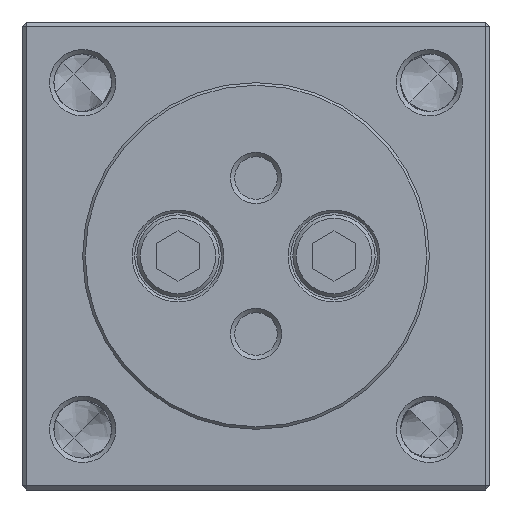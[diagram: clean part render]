
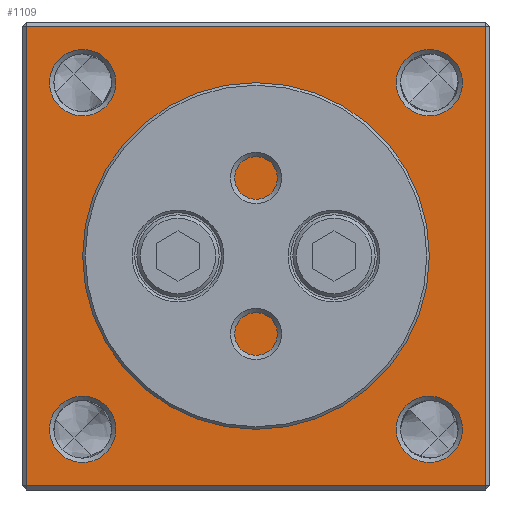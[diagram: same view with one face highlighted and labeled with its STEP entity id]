
A CAD part, front view. The second image highlights one B-rep face of the part: STEP entity #1109.
In plain terms, the highlighted planar face has unit normal (0, -1, 0).
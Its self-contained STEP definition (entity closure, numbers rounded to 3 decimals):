
#1000=CARTESIAN_POINT('',(9.0,0.0,6.289));
#1001=VERTEX_POINT('',#1000);
#1002=CARTESIAN_POINT('',(9.0,0.0,0.0));
#1003=DIRECTION('',(0.0,-1.0,0.0));
#1004=DIRECTION('',(0.0,0.0,-1.0));
#1005=AXIS2_PLACEMENT_3D('',#1002,#1003,#1004);
#1006=CIRCLE('',#1005,6.289);
#1007=EDGE_CURVE('',#1001,#1001,#1006,.T.);
#1012=CARTESIAN_POINT('',(0.,0.0,0.));
#1013=DIRECTION('',(0.0,1.0,0.0));
#1014=DIRECTION('',(0.0,0.0,1.0));
#1015=AXIS2_PLACEMENT_3D('',#1012,#1013,#1014);
#1016=PLANE('',#1015);
#1017=CARTESIAN_POINT('',(-26.5,0.0,26.5));
#1018=VERTEX_POINT('',#1017);
#1019=CARTESIAN_POINT('',(26.5,0.0,26.5));
#1020=VERTEX_POINT('',#1019);
#1021=CARTESIAN_POINT('',(-26.5,0.0,26.5));
#1022=DIRECTION('',(1.0,0.0,0.0));
#1023=VECTOR('',#1022,53.0);
#1024=LINE('',#1021,#1023);
#1025=EDGE_CURVE('',#1018,#1020,#1024,.T.);
#1026=ORIENTED_EDGE('',*,*,#1025,.F.);
#1027=CARTESIAN_POINT('',(-26.5,0.0,-26.5));
#1028=VERTEX_POINT('',#1027);
#1029=CARTESIAN_POINT('',(-26.5,0.0,-26.5));
#1030=DIRECTION('',(0.0,0.0,1.0));
#1031=VECTOR('',#1030,53.);
#1032=LINE('',#1029,#1031);
#1033=EDGE_CURVE('',#1028,#1018,#1032,.T.);
#1034=ORIENTED_EDGE('',*,*,#1033,.F.);
#1035=CARTESIAN_POINT('',(26.5,0.0,-26.5));
#1036=VERTEX_POINT('',#1035);
#1037=CARTESIAN_POINT('',(26.5,0.0,-26.5));
#1038=DIRECTION('',(-1.0,0.0,0.0));
#1039=VECTOR('',#1038,53.);
#1040=LINE('',#1037,#1039);
#1041=EDGE_CURVE('',#1036,#1028,#1040,.T.);
#1042=ORIENTED_EDGE('',*,*,#1041,.F.);
#1043=CARTESIAN_POINT('',(26.5,0.0,26.5));
#1044=DIRECTION('',(0.0,0.0,-1.0));
#1045=VECTOR('',#1044,53.);
#1046=LINE('',#1043,#1045);
#1047=EDGE_CURVE('',#1020,#1036,#1046,.T.);
#1048=ORIENTED_EDGE('',*,*,#1047,.F.);
#1049=EDGE_LOOP('',(#1026,#1034,#1042,#1048));
#1050=FACE_OUTER_BOUND('',#1049,.T.);
#1051=CARTESIAN_POINT('',(-9.,0.0,6.289));
#1052=VERTEX_POINT('',#1051);
#1053=CARTESIAN_POINT('',(-9.0,0.0,0.0));
#1054=DIRECTION('',(0.0,-1.0,0.0));
#1055=DIRECTION('',(0.0,0.0,-1.0));
#1056=AXIS2_PLACEMENT_3D('',#1053,#1054,#1055);
#1057=CIRCLE('',#1056,6.289);
#1058=EDGE_CURVE('',#1052,#1052,#1057,.T.);
#1059=ORIENTED_EDGE('',*,*,#1058,.F.);
#1060=EDGE_LOOP('',(#1059));
#1061=FACE_BOUND('',#1060,.T.);
#1062=CARTESIAN_POINT('',(23.824,0.0,-20.0));
#1063=VERTEX_POINT('',#1062);
#1064=CARTESIAN_POINT('',(20.0,0.0,-20.0));
#1065=DIRECTION('',(0.0,-1.0,0.0));
#1066=DIRECTION('',(-1.0,0.0,0.0));
#1067=AXIS2_PLACEMENT_3D('',#1064,#1065,#1066);
#1068=CIRCLE('',#1067,3.824);
#1069=EDGE_CURVE('',#1063,#1063,#1068,.T.);
#1070=ORIENTED_EDGE('',*,*,#1069,.F.);
#1071=EDGE_LOOP('',(#1070));
#1072=FACE_BOUND('',#1071,.T.);
#1073=CARTESIAN_POINT('',(23.824,0.0,20.0));
#1074=VERTEX_POINT('',#1073);
#1075=CARTESIAN_POINT('',(20.0,0.0,20.0));
#1076=DIRECTION('',(0.0,-1.0,0.0));
#1077=DIRECTION('',(-1.0,0.0,0.0));
#1078=AXIS2_PLACEMENT_3D('',#1075,#1076,#1077);
#1079=CIRCLE('',#1078,3.824);
#1080=EDGE_CURVE('',#1074,#1074,#1079,.T.);
#1081=ORIENTED_EDGE('',*,*,#1080,.F.);
#1082=EDGE_LOOP('',(#1081));
#1083=FACE_BOUND('',#1082,.T.);
#1084=CARTESIAN_POINT('',(-16.177,0.0,20.0));
#1085=VERTEX_POINT('',#1084);
#1086=CARTESIAN_POINT('',(-20.0,0.0,20.0));
#1087=DIRECTION('',(0.0,-1.0,0.0));
#1088=DIRECTION('',(-1.0,0.0,0.0));
#1089=AXIS2_PLACEMENT_3D('',#1086,#1087,#1088);
#1090=CIRCLE('',#1089,3.823);
#1091=EDGE_CURVE('',#1085,#1085,#1090,.T.);
#1092=ORIENTED_EDGE('',*,*,#1091,.F.);
#1093=EDGE_LOOP('',(#1092));
#1094=FACE_BOUND('',#1093,.T.);
#1095=CARTESIAN_POINT('',(-16.177,0.0,-20.0));
#1096=VERTEX_POINT('',#1095);
#1097=CARTESIAN_POINT('',(-20.0,0.0,-20.0));
#1098=DIRECTION('',(0.0,-1.0,0.0));
#1099=DIRECTION('',(-1.0,0.0,0.0));
#1100=AXIS2_PLACEMENT_3D('',#1097,#1098,#1099);
#1101=CIRCLE('',#1100,3.823);
#1102=EDGE_CURVE('',#1096,#1096,#1101,.T.);
#1103=ORIENTED_EDGE('',*,*,#1102,.F.);
#1104=EDGE_LOOP('',(#1103));
#1105=FACE_BOUND('',#1104,.T.);
#1106=ORIENTED_EDGE('',*,*,#1007,.F.);
#1107=EDGE_LOOP('',(#1106));
#1108=FACE_BOUND('',#1107,.T.);
#1109=ADVANCED_FACE('',(#1050,#1061,#1072,#1083,#1094,#1105,#1108),#1016,.F.);
